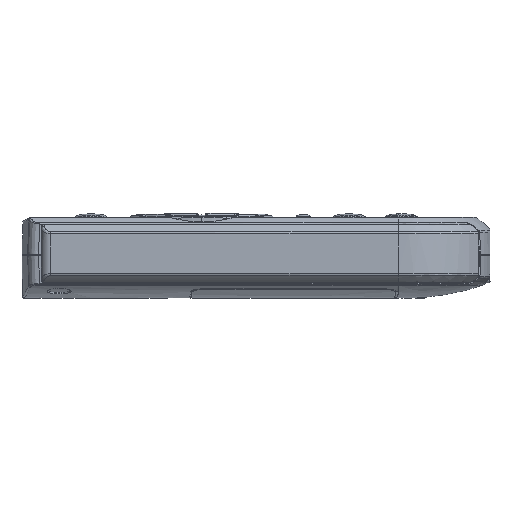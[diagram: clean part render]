
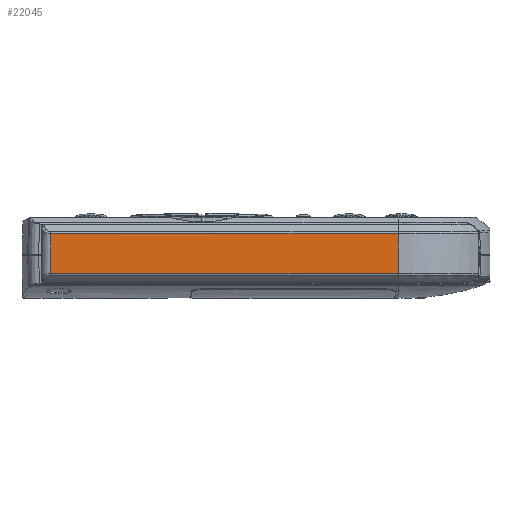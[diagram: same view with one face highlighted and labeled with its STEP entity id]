
A CAD part, left-side view. The second image highlights one B-rep face of the part: STEP entity #22045.
In plain terms, the highlighted planar face has unit normal (-1, 0, 0).
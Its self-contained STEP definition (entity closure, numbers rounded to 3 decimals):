
#442 = B_SPLINE_CURVE_WITH_KNOTS ( 'NONE', 3,
 ( #79553, #79555, #79566, #79575 ),
 .UNSPECIFIED., .F., .F.,
 ( 4, 4 ),
 ( 0., 1. ),
 .UNSPECIFIED. ) ;
#1474 = DIRECTION ( 'NONE',  ( 1., 0., 0. ) ) ;
#1731 = PLANE ( 'NONE',  #2195 ) ;
#1846 = CARTESIAN_POINT ( 'NONE',  ( -30., 70., 13.75 ) ) ;
#2195 = AXIS2_PLACEMENT_3D ( 'NONE', #1846, #1474, #6782 ) ;
#3292 = B_SPLINE_CURVE_WITH_KNOTS ( 'NONE', 3,
 ( #83314, #83373, #83306, #83334 ),
 .UNSPECIFIED., .F., .F.,
 ( 4, 4 ),
 ( 0., 1. ),
 .UNSPECIFIED. ) ;
#6782 = DIRECTION ( 'NONE',  ( 0., 0., -1. ) ) ;
#22045 = ADVANCED_FACE ( 'NONE', ( #57585 ), #1731, .F. ) ;
#27312 = EDGE_CURVE ( 'NONE', #56009, #55997, #442, .T. ) ;
#40025 = EDGE_CURVE ( 'NONE', #55997, #55754, #71028, .T. ) ;
#40051 = EDGE_CURVE ( 'NONE', #55754, #55718, #71054, .T. ) ;
#40080 = EDGE_CURVE ( 'NONE', #55718, #56009, #3292, .T. ) ;
#44344 = DIRECTION ( 'NONE',  ( 0., 1., 0. ) ) ;
#44350 = CARTESIAN_POINT ( 'NONE',  ( -30., -46., -5.944 ) ) ;
#55718 = VERTEX_POINT ( 'NONE', #65377 ) ;
#55754 = VERTEX_POINT ( 'NONE', #65281 ) ;
#55997 = VERTEX_POINT ( 'NONE', #65539 ) ;
#56009 = VERTEX_POINT ( 'NONE', #65551 ) ;
#57585 = FACE_OUTER_BOUND ( 'NONE', #72004, .T. ) ;
#65281 = CARTESIAN_POINT ( 'NONE',  ( -30., 63.759, -5.944 ) ) ;
#65377 = CARTESIAN_POINT ( 'NONE',  ( -30., 63.759, 6.649 ) ) ;
#65539 = CARTESIAN_POINT ( 'NONE',  ( -30., -46., -5.944 ) ) ;
#65551 = CARTESIAN_POINT ( 'NONE',  ( -30., -46., 6.649 ) ) ;
#71016 = VECTOR ( 'NONE', #44344, 1000. ) ;
#71028 = LINE ( 'NONE', #44350, #71016 ) ;
#71054 = LINE ( 'NONE', #83022, #71055 ) ;
#71055 = VECTOR ( 'NONE', #83046, 1000. ) ;
#72004 = EDGE_LOOP ( 'NONE', ( #73574, #73683, #73650, #73565 ) ) ;
#73565 = ORIENTED_EDGE ( 'NONE', *, *, #40025, .F. ) ;
#73574 = ORIENTED_EDGE ( 'NONE', *, *, #27312, .F. ) ;
#73650 = ORIENTED_EDGE ( 'NONE', *, *, #40051, .F. ) ;
#73683 = ORIENTED_EDGE ( 'NONE', *, *, #40080, .F. ) ;
#79553 = CARTESIAN_POINT ( 'NONE',  ( -30., -46., 6.649 ) ) ;
#79555 = CARTESIAN_POINT ( 'NONE',  ( -30., -46., 2.451 ) ) ;
#79566 = CARTESIAN_POINT ( 'NONE',  ( -30., -46., -1.747 ) ) ;
#79575 = CARTESIAN_POINT ( 'NONE',  ( -30., -46., -5.944 ) ) ;
#83022 = CARTESIAN_POINT ( 'NONE',  ( -30., 63.759, -20. ) ) ;
#83046 = DIRECTION ( 'NONE',  ( 0., 0., 1. ) ) ;
#83306 = CARTESIAN_POINT ( 'NONE',  ( -30., -9.414, 6.649 ) ) ;
#83314 = CARTESIAN_POINT ( 'NONE',  ( -30., 63.759, 6.649 ) ) ;
#83334 = CARTESIAN_POINT ( 'NONE',  ( -30., -46., 6.649 ) ) ;
#83373 = CARTESIAN_POINT ( 'NONE',  ( -30., 27.172, 6.649 ) ) ;
